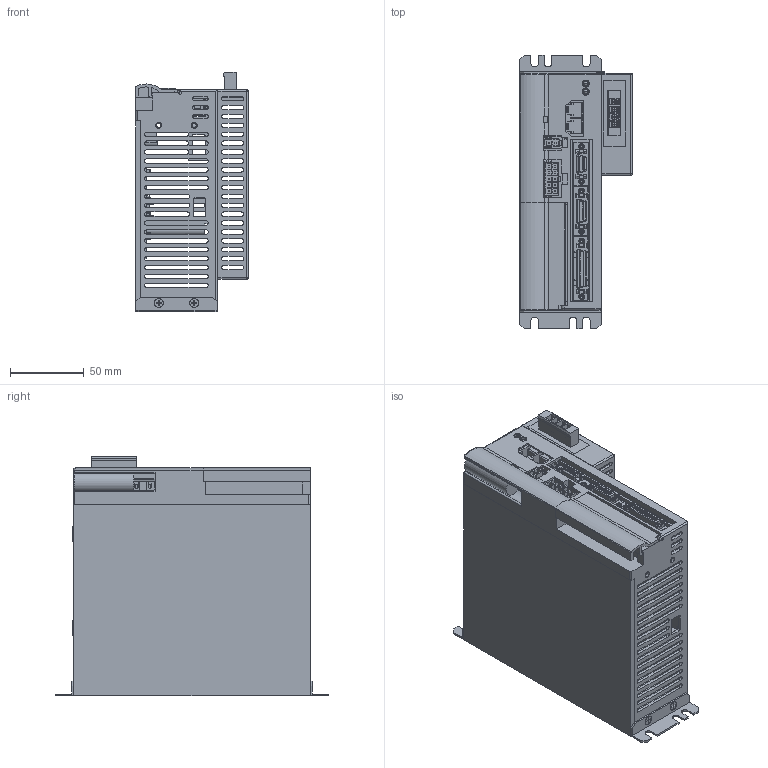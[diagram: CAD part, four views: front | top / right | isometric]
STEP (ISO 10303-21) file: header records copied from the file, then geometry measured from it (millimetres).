
FILE_DESCRIPTION( (''), '2;1');
FILE_NAME ('CA25-M10-_CC_3D.stp','2016-05-25T10:19:59',(''),(''),'spGate 11.3.10','spGate','');
FILE_SCHEMA (('AUTOMOTIVE_DESIGN'));
Length unit declared in the file: millimetre
Products named in the file (223): Assembly; CA25-M10-_CC_3D-prt0; CA25-M10-_CC_3D-prt1; CA25-M10-_CC_3D-prt2; CA25-M10-_CC_3D-prt3; CA25-M10-_CC_3D-prt4; CA25-M10-_CC_3D-prt5; CA25-M10-_CC_3D-prt6; CA25-M10-_CC_3D-prt7; CA25-M10-_CC_3D-prt8; CA25-M10-_CC_3D-prt9; CA25-M10-_CC_3D-prt10; CA25-M10-_CC_3D-prt11; CA25-M10-_CC_3D-prt12; CA25-M10-_CC_3D-prt13; CA25-M10-_CC_3D-prt14; CA25-M10-_CC_3D-prt15; CA25-M10-_CC_3D-prt16; CA25-M10-_CC_3D-prt17; CA25-M10-_CC_3D-prt18; CA25-M10-_CC_3D-prt19; CA25-M10-_CC_3D-prt20; CA25-M10-_CC_3D-prt21; CA25-M10-_CC_3D-prt22; CA25-M10-_CC_3D-prt23; CA25-M10-_CC_3D-prt24; CA25-M10-_CC_3D-prt25; CA25-M10-_CC_3D-prt26; CA25-M10-_CC_3D-prt27; CA25-M10-_CC_3D-prt28; CA25-M10-_CC_3D-prt29; CA25-M10-_CC_3D-prt30; CA25-M10-_CC_3D-prt31; CA25-M10-_CC_3D-prt32; CA25-M10-_CC_3D-prt33; CA25-M10-_CC_3D-prt34; CA25-M10-_CC_3D-prt35; CA25-M10-_CC_3D-prt36; CA25-M10-_CC_3D-prt37; CA25-M10-_CC_3D-prt38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
Assembly tree (222 placements, depth 2):
  Assembly
    CA25-M10-_CC_3D-prt0
    CA25-M10-_CC_3D-prt1
    CA25-M10-_CC_3D-prt2
    CA25-M10-_CC_3D-prt3
    CA25-M10-_CC_3D-prt4
    CA25-M10-_CC_3D-prt5
    CA25-M10-_CC_3D-prt6
    CA25-M10-_CC_3D-prt7
    CA25-M10-_CC_3D-prt8
    CA25-M10-_CC_3D-prt9
    CA25-M10-_CC_3D-prt10
    CA25-M10-_CC_3D-prt11
    CA25-M10-_CC_3D-prt12
    CA25-M10-_CC_3D-prt13
    CA25-M10-_CC_3D-prt14
    CA25-M10-_CC_3D-prt15
    CA25-M10-_CC_3D-prt16
    CA25-M10-_CC_3D-prt17
    CA25-M10-_CC_3D-prt18
    CA25-M10-_CC_3D-prt19
    CA25-M10-_CC_3D-prt20
    CA25-M10-_CC_3D-prt21
    CA25-M10-_CC_3D-prt22
    CA25-M10-_CC_3D-prt23
    CA25-M10-_CC_3D-prt24
    CA25-M10-_CC_3D-prt25
    CA25-M10-_CC_3D-prt26
    CA25-M10-_CC_3D-prt27
    CA25-M10-_CC_3D-prt28
    CA25-M10-_CC_3D-prt29
    CA25-M10-_CC_3D-prt30
    CA25-M10-_CC_3D-prt31
    CA25-M10-_CC_3D-prt32
    CA25-M10-_CC_3D-prt33
    CA25-M10-_CC_3D-prt34
    CA25-M10-_CC_3D-prt35
    CA25-M10-_CC_3D-prt36
    CA25-M10-_CC_3D-prt37
    CA25-M10-_CC_3D-prt38
    CA25-M10-_CC_3D-prt39
    CA25-M10-_CC_3D-prt40
    CA25-M10-_CC_3D-prt41
    CA25-M10-_CC_3D-prt42
    CA25-M10-_CC_3D-prt43
    CA25-M10-_CC_3D-prt44
    CA25-M10-_CC_3D-prt45
    CA25-M10-_CC_3D-prt46
    CA25-M10-_CC_3D-prt47
    CA25-M10-_CC_3D-prt48
    CA25-M10-_CC_3D-prt49
    CA25-M10-_CC_3D-prt50
    CA25-M10-_CC_3D-prt51
    CA25-M10-_CC_3D-prt52
    CA25-M10-_CC_3D-prt53
    CA25-M10-_CC_3D-prt54
    CA25-M10-_CC_3D-prt55
    CA25-M10-_CC_3D-prt56
    CA25-M10-_CC_3D-prt57
    CA25-M10-_CC_3D-prt58
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Bounding box: 76 x 185 x 162 mm (x, y, z)
Volume: 257781.6 mm3; surface area: 251355.8 mm2
Topology: 48 solids, 50 shells, 4393 faces, 12310 edges, 8390 vertices
Faces by surface type: plane 3403, cylinder 854, bspline 112, sphere 24
Entity records: 247937 total; most frequent: CARTESIAN_POINT 33007, ORIENTED_EDGE 24206, DIRECTION 22897, COLOUR_RGB 16723, PRESENTATION_STYLE_ASSIGNMENT 16723, STYLED_ITEM 16723, DRAUGHTING_PRE_DEFINED_CURVE_FONT 12280, CURVE_STYLE 12280
